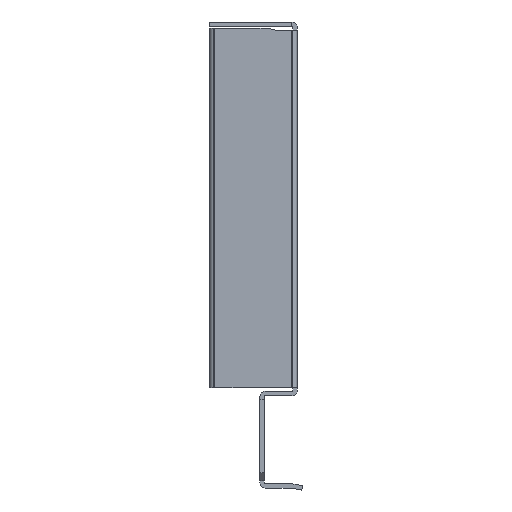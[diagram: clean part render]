
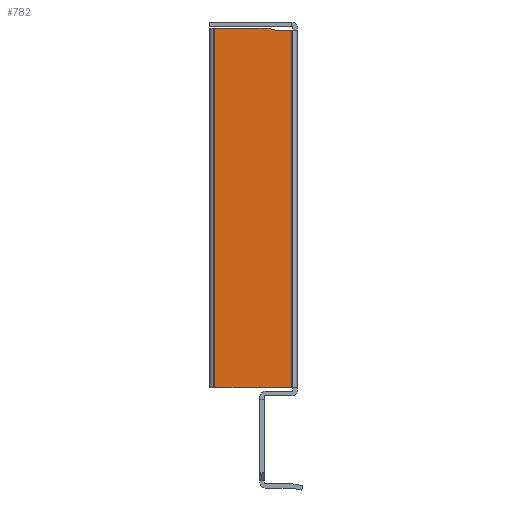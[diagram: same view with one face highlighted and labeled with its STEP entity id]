
A CAD part, left-side view. The second image highlights one B-rep face of the part: STEP entity #782.
In plain terms, the highlighted planar face has unit normal (-1, 0, 0).
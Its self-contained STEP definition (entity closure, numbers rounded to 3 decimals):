
#306 = CARTESIAN_POINT ( 'NONE',  ( -380., -5., 82.5 ) ) ;
#307 = CARTESIAN_POINT ( 'NONE',  ( -380., -2., 82.5 ) ) ;
#324 = CARTESIAN_POINT ( 'NONE',  ( -380., 9., 82.9 ) ) ;
#339 = CARTESIAN_POINT ( 'NONE',  ( -380., -0.507, 82.9 ) ) ;
#342 = CARTESIAN_POINT ( 'NONE',  ( -380., 9., 17.5 ) ) ;
#343 = CARTESIAN_POINT ( 'NONE',  ( -380., -5., 17.5 ) ) ;
#456 = DIRECTION ( 'NONE',  ( 0., 0., -1. ) ) ;
#463 = CARTESIAN_POINT ( 'NONE',  ( -380., -5., 101.385 ) ) ;
#520 = VERTEX_POINT ( 'NONE', #343 ) ;
#521 = VERTEX_POINT ( 'NONE', #342 ) ;
#524 = VERTEX_POINT ( 'NONE', #339 ) ;
#535 = VERTEX_POINT ( 'NONE', #324 ) ;
#547 = VERTEX_POINT ( 'NONE', #307 ) ;
#548 = VERTEX_POINT ( 'NONE', #306 ) ;
#660 = AXIS2_PLACEMENT_3D ( 'NONE', #1443, #1439, #1436 ) ;
#782 = ADVANCED_FACE ( 'NONE', ( #2141 ), #1446, .T. ) ;
#854 = DIRECTION ( 'NONE',  ( 0., -0.966, -0.259 ) ) ;
#855 = CARTESIAN_POINT ( 'NONE',  ( -380., 0.612, 83.2 ) ) ;
#861 = DIRECTION ( 'NONE',  ( 0., -1., 0. ) ) ;
#862 = CARTESIAN_POINT ( 'NONE',  ( -380., -2., 82.5 ) ) ;
#864 = DIRECTION ( 'NONE',  ( 0., 0., -1. ) ) ;
#865 = CARTESIAN_POINT ( 'NONE',  ( -380., 9., 101.385 ) ) ;
#1060 = EDGE_LOOP ( 'NONE', ( #1861, #1862, #1863, #1864, #1865, #1866 ) ) ;
#1130 = DIRECTION ( 'NONE',  ( 0., 1., 0. ) ) ;
#1132 = CARTESIAN_POINT ( 'NONE',  ( -380., -5., 82.9 ) ) ;
#1161 = DIRECTION ( 'NONE',  ( 0., 1., 0. ) ) ;
#1162 = CARTESIAN_POINT ( 'NONE',  ( -380., -5., 17.5 ) ) ;
#1417 = EDGE_CURVE ( 'NONE', #520, #521, #2331, .T. ) ;
#1436 = DIRECTION ( 'NONE',  ( 0., -1., 0. ) ) ;
#1439 = DIRECTION ( 'NONE',  ( -1., 0., 0. ) ) ;
#1443 = CARTESIAN_POINT ( 'NONE',  ( -380., -5., 101.385 ) ) ;
#1446 = PLANE ( 'NONE',  #660 ) ;
#1448 = EDGE_CURVE ( 'NONE', #524, #535, #2346, .T. ) ;
#1539 = EDGE_CURVE ( 'NONE', #535, #521, #2360, .T. ) ;
#1548 = EDGE_CURVE ( 'NONE', #547, #548, #2363, .T. ) ;
#1563 = EDGE_CURVE ( 'NONE', #524, #547, #2365, .T. ) ;
#1666 = EDGE_CURVE ( 'NONE', #548, #520, #2374, .T. ) ;
#1861 = ORIENTED_EDGE ( 'NONE', *, *, #1548, .F. ) ;
#1862 = ORIENTED_EDGE ( 'NONE', *, *, #1563, .F. ) ;
#1863 = ORIENTED_EDGE ( 'NONE', *, *, #1448, .T. ) ;
#1864 = ORIENTED_EDGE ( 'NONE', *, *, #1539, .T. ) ;
#1865 = ORIENTED_EDGE ( 'NONE', *, *, #1417, .F. ) ;
#1866 = ORIENTED_EDGE ( 'NONE', *, *, #1666, .F. ) ;
#2141 = FACE_OUTER_BOUND ( 'NONE', #1060, .T. ) ;
#2331 = LINE ( 'NONE', #1162, #2333 ) ;
#2333 = VECTOR ( 'NONE', #1161, 1000. ) ;
#2346 = LINE ( 'NONE', #1132, #2348 ) ;
#2348 = VECTOR ( 'NONE', #1130, 1000. ) ;
#2360 = LINE ( 'NONE', #865, #2362 ) ;
#2362 = VECTOR ( 'NONE', #864, 1000. ) ;
#2363 = LINE ( 'NONE', #862, #2364 ) ;
#2364 = VECTOR ( 'NONE', #861, 1000. ) ;
#2365 = LINE ( 'NONE', #855, #2367 ) ;
#2367 = VECTOR ( 'NONE', #854, 1000. ) ;
#2374 = LINE ( 'NONE', #463, #2375 ) ;
#2375 = VECTOR ( 'NONE', #456, 1000. ) ;
